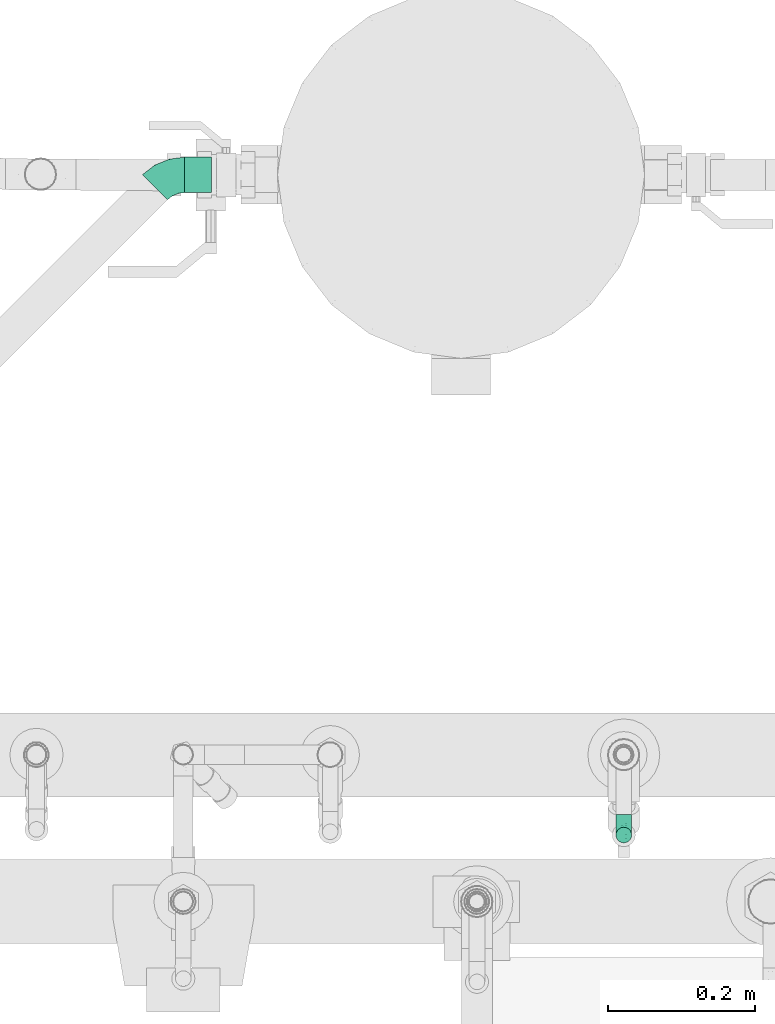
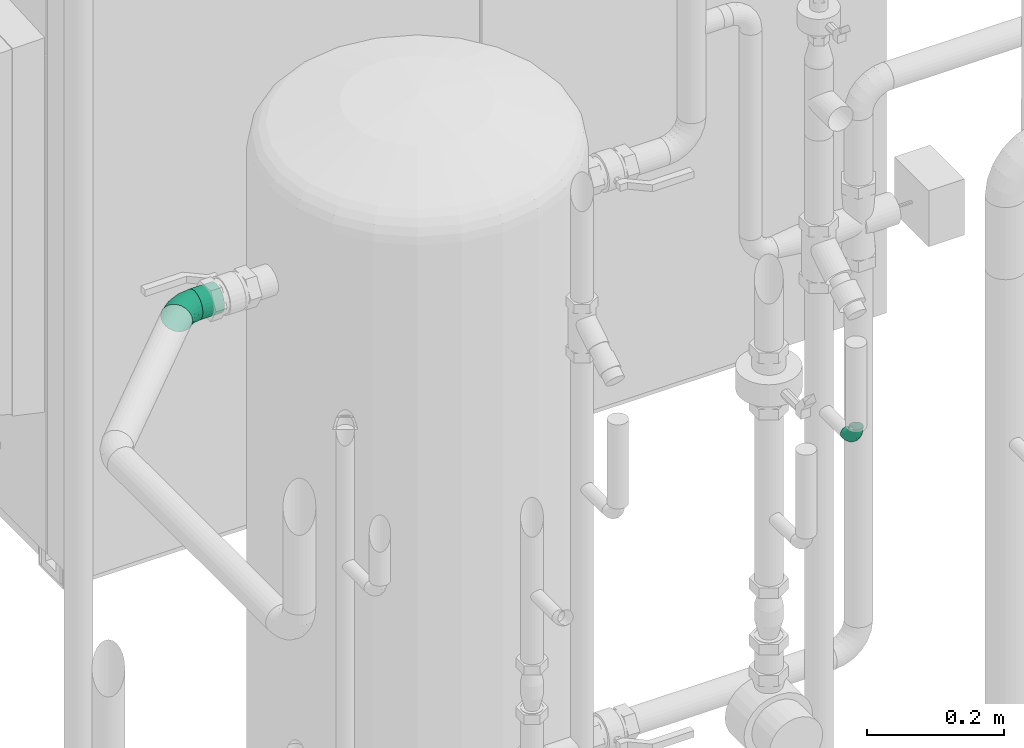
# One storey, part 348 of 374: 3 flow segments.
"""IFC2X3 building model written with IfcOpenShell, lengths in metres."""

from ifc_helpers import new_model, si_unit, direction, origin, place, context, subcontext, project, spatial, open_shell, surface_model, source, transform, mapped, element, save


model = new_model("IFC2X3")

# Units and contexts
model_context = context("Model", 3, precision=1e-05, world=origin(), true_north=direction((-0.4480736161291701, 0.8939966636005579)))
body_context = subcontext(model_context, "Body", "Model", "MODEL_VIEW")
ifc_project = project(units=[si_unit("LENGTHUNIT", "METRE"), si_unit("AREAUNIT", "SQUARE_METRE"), si_unit("VOLUMEUNIT", "CUBIC_METRE"), si_unit("PLANEANGLEUNIT", "RADIAN"), si_unit("THERMODYNAMICTEMPERATUREUNIT", "KELVIN"), si_unit("MASSUNIT", "GRAM", prefix="KILO"), si_unit("TIMEUNIT", "SECOND")], contexts=[model_context])

# Site, building, storey
site_placement = place(None, origin())
site = spatial("IfcSite", under=ifc_project, at=site_placement, Name="Site 1", CompositionType="ELEMENT")
building_placement = place(site_placement, origin())
building = spatial("IfcBuilding", under=site, at=building_placement, Name="Undefined", CompositionType="ELEMENT")
storey_placement = place(building_placement, origin())
storey = spatial("IfcBuildingStorey", under=building, at=storey_placement, Name="Rez de chauss\x8ee", CompositionType="ELEMENT", Elevation=0.0)

# Flow segments
shared_shape_1 = source(origin(), body_context, "Body", "SurfaceModel", [
    surface_model("IfcFaceBasedSurfaceModel", [(0.010089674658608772, 0.0, 1.33226763e-15), (0.010042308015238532, 0.002779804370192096, 1.33226763e-15), (4.73666433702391e-05, 0.0027798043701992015, 4.4408921e-16), (0.0, 0.0, 0.0), (-0.009607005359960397, 0.00311462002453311, -0.0025651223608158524), (-0.00974587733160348, 0.0003379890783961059, -0.0025894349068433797), (-0.01826287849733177, 0.003761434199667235, -0.007520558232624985), (-0.018483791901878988, 0.000990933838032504, -0.007591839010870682), (-0.025330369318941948, 0.004676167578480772, -0.014528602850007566), (-0.025618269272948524, 0.001914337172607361, -0.014666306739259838), (-0.030327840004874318, 0.005796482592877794, -0.023111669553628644), (-0.030663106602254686, 0.003045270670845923, -0.023330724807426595), (-0.03291472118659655, 0.00704603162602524, -0.03268483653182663), (-0.03327450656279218, 0.004306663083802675, -0.0329946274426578), (0.009903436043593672, 0.005463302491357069, -0.000713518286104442), (0.000186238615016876, 0.005463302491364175, -0.0007135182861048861), (-0.009199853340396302, 0.005788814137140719, -0.0032073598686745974), (-0.017615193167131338, 0.006417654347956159, -0.008025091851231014), (-0.02448628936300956, 0.007306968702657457, -0.014838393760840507), (-0.029344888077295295, 0.008396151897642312, -0.023182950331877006), (-0.031859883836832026, 0.009610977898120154, -0.0324900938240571), (0.009682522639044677, 0.007867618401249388, -0.002091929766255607), (0.0004071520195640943, 0.007867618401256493, -0.002091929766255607), (-0.008552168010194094, 0.008178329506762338, -0.004472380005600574), (-0.0165848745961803, 0.008778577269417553, -0.00907105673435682), (-0.023143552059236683, 0.00962745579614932, -0.015574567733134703), (-0.027781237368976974, 0.010667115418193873, -0.023539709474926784), (-0.030181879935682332, 0.011826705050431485, -0.03242367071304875), (0.009394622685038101, 0.009828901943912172, -0.0040412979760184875), (0.000695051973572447, 0.009828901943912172, -0.0040412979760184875), (-0.007708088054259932, 0.010120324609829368, -0.006273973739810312), (-0.015242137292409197, 0.010683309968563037, -0.010587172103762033), (-0.02139366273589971, 0.011479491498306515, -0.01668695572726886), (-0.0257434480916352, 0.012454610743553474, -0.02415763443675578), (-0.027995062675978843, 0.013542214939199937, -0.03249009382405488), (0.00905935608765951, 0.011213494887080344, -0.006428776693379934), (0.0010303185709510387, 0.01121349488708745, -0.006428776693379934), (-0.006725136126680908, 0.011482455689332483, -0.00848936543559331), (-0.0136784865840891, 0.01200204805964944, -0.01247011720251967), (-0.01935587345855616, 0.012736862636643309, -0.018099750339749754), (-0.02337039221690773, 0.013636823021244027, -0.024994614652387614), (-0.02544846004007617, 0.014640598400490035, -0.03268483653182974), (0.008699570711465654, 0.01192703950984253, -0.009091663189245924), (0.001390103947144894, 0.01192703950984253, -0.009091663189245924), (-0.005670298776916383, 0.01217189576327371, -0.010967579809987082), (-0.01200048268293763, 0.012644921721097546, -0.014591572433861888), (-0.017169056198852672, 0.013313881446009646, -0.01971667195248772), (-0.02082378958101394, 0.014133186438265, -0.025993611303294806), (-0.02271561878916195, 0.01504700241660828, -0.032994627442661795), (0.008339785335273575, 0.011920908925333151, -0.011848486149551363), (0.0017498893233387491, 0.011920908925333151, -0.011848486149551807), (-0.0046154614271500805, 0.012141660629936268, -0.013539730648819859), (-0.01032247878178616, 0.012568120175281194, -0.016806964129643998), (-0.014982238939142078, 0.013171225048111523, -0.02142753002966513), (-0.018277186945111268, 0.01390987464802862, -0.027086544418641), (-0.01998277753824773, 0.01473373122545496, -0.033398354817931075), (0.008004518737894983, 0.011195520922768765, -0.01451137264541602), (0.0020851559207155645, 0.011195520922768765, -0.014511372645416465), (-0.003632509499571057, 0.011393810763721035, -0.016030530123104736), (-0.008758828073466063, 0.011776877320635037, -0.018965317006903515), (-0.01294444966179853, 0.012318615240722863, -0.023115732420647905), (-0.01590413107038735, 0.012982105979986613, -0.028198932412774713), (-0.017436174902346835, 0.013722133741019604, -0.03386850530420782), (0.007716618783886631, 0.009800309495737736, -0.016898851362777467), (0.002373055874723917, 0.009800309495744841, -0.016898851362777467), (-0.0027884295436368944, 0.009979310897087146, -0.018270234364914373), (-0.007416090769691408, 0.010325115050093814, -0.020919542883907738), (-0.01119456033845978, 0.010814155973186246, -0.024666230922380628), (-0.013866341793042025, 0.011413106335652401, -0.02925496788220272), (-0.015249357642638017, 0.012081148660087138, -0.03437303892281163), (0.007495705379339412, 0.007830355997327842, -0.018848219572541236), (0.002593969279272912, 0.007830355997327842, -0.018848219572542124), (-0.00214074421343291, 0.00799455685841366, -0.02010621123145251), (-0.006385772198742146, 0.008311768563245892, -0.022536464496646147), (-0.009851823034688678, 0.008760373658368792, -0.025973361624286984), (-0.012302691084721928, 0.00930980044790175, -0.03018268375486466), (-0.013571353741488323, 0.009922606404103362, -0.034877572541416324), (0.007356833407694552, 0.0054199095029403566, -0.020226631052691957), (0.002732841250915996, 0.005419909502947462, -0.0202266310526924), (-0.0017335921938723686, 0.005574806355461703, -0.021413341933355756), (-0.005738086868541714, 0.005874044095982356, -0.023705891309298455), (-0.009007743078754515, 0.006297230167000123, -0.026948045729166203), (-0.011319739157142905, 0.006815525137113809, -0.030918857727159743), (-0.012516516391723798, 0.007393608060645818, -0.03534772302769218), (0.007309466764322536, 0.0027332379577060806, -0.020940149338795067), (0.0027802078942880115, 0.002733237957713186, -0.020940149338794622), (-0.001594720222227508, 0.0028849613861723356, -0.022102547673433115), (-0.0055171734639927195, 0.0031780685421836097, -0.024348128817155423), (-0.008719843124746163, 0.003592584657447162, -0.027523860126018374), (-0.010984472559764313, 0.004100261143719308, -0.03141332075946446), (-0.012156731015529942, 0.004666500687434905, -0.035751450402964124), (0.007356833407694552, -4.656641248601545e-05, -0.020940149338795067), (0.0027328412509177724, -4.656641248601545e-05, -0.0209401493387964), (-0.0017335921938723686, 0.00010833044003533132, -0.022126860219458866), (-0.005738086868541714, 0.00040756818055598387, -0.024419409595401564), (-0.009007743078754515, 0.0008307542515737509, -0.027661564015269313), (-0.011319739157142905, 0.0013490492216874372, -0.03163237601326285), (-0.012516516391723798, 0.0019271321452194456, -0.03606124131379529), (0.007495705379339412, -0.002730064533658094, -0.020226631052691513), (0.002593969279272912, -0.002730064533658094, -0.0202266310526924), (-0.00214074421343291, -0.002565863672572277, -0.021484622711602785), (-0.006385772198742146, -0.002248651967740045, -0.023914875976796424), (-0.009851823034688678, -0.0018000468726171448, -0.02735177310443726), (-0.012302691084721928, -0.0012506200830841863, -0.031561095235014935), (-0.013571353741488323, -0.0006378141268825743, -0.0362559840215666), (0.007716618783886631, -0.005134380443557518, -0.01884821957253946), (0.002373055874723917, -0.0051343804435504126, -0.01884821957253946), (-0.0027884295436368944, -0.004955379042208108, -0.020219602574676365), (-0.007416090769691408, -0.00460957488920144, -0.02286891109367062), (-0.01119456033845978, -0.004120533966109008, -0.026615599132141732), (-0.013866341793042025, -0.0035215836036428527, -0.031204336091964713), (-0.015249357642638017, -0.002853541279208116, -0.03632240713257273), (0.008004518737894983, -0.007095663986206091, -0.01689885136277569), (0.0020851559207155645, -0.007095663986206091, -0.016898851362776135), (-0.003632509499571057, -0.006897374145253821, -0.018418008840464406), (-0.008758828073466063, -0.006514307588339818, -0.021352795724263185), (-0.01294444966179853, -0.005972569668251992, -0.025503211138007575), (-0.01590413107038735, -0.005309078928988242, -0.030586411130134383), (-0.017436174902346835, -0.0045690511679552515, -0.03625598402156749), (0.008339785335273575, -0.008480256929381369, -0.014511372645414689), (0.0017498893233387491, -0.008480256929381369, -0.014511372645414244), (-0.0046154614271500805, -0.008259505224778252, -0.016202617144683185), (-0.01032247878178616, -0.007833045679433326, -0.019469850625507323), (-0.014982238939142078, -0.007229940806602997, -0.024090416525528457), (-0.018277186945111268, -0.006491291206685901, -0.029749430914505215), (-0.01998277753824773, -0.00566743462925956, -0.0360612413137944), (0.008699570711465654, -0.009193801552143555, -0.011848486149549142), (0.001390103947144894, -0.009193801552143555, -0.011848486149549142), (-0.005670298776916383, -0.008948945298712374, -0.013724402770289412), (-0.01200048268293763, -0.008475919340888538, -0.017348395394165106), (-0.017169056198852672, -0.007806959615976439, -0.022473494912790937), (-0.02082378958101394, -0.006987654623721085, -0.028750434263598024), (-0.02271561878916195, -0.006073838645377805, -0.035751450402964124), (0.00905935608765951, -0.009187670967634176, -0.00909166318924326), (0.0010303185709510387, -0.00918767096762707, -0.00909166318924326), (-0.006725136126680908, -0.008918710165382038, -0.011152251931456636), (-0.0136784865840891, -0.00839911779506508, -0.015133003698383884), (-0.01935587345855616, -0.007664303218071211, -0.02076263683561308), (-0.02337039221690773, -0.006764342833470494, -0.02765750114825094), (-0.02544846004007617, -0.005760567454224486, -0.03534772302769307), (0.009394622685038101, -0.008462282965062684, -0.006428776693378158), (0.000695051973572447, -0.008462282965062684, -0.006428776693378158), (-0.007708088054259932, -0.008170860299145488, -0.008661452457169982), (-0.015242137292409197, -0.0076078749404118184, -0.012974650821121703), (-0.02139366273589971, -0.00681169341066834, -0.01907443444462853), (-0.0257434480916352, -0.005836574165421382, -0.02654511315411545), (-0.027995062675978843, -0.004748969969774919, -0.03487757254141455), (0.009682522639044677, -0.007067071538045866, -0.004041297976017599), (0.0004071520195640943, -0.0070670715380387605, -0.004041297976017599), (-0.008552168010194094, -0.006756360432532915, -0.006421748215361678), (-0.0165848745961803, -0.0061561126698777, -0.011020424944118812), (-0.023143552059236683, -0.0053072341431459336, -0.017523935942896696), (-0.027781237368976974, -0.0042675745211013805, -0.02548907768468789), (-0.030181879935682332, -0.0031079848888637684, -0.03437303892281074), (0.009903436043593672, -0.005097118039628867, -0.0020919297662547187), (0.000186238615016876, -0.005097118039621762, -0.002091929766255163), (-0.009199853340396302, -0.004771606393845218, -0.004585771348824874), (-0.017615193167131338, -0.004142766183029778, -0.009403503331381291), (-0.02448628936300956, -0.0032534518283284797, -0.016216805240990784), (-0.029344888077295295, -0.0021642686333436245, -0.024561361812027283), (-0.031859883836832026, -0.0009494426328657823, -0.033868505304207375), (0.010042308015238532, -0.002686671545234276, -0.0007135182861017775), (4.73666433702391e-05, -0.0026866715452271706, -0.0007135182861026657), (-0.009607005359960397, -0.002351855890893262, -0.003278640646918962), (-0.01826287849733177, -0.0017050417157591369, -0.008234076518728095), (-0.025330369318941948, -0.0007903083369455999, -0.015242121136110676), (-0.030327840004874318, 0.0003300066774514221, -0.023825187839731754), (-0.03291472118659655, 0.0015795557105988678, -0.03339835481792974)], [open_shell([[[0, 1, 2, 3]], [[3, 2, 4, 5]], [[5, 4, 6, 7]], [[7, 6, 8, 9]], [[9, 8, 10, 11]], [[11, 10, 12, 13]], [[1, 14, 15, 2]], [[2, 15, 16, 4]], [[4, 16, 17, 6]], [[6, 17, 18, 8]], [[8, 18, 19, 10]], [[10, 19, 20, 12]], [[14, 21, 22, 15]], [[15, 22, 23, 16]], [[16, 23, 24, 17]], [[17, 24, 25, 18]], [[18, 25, 26, 19]], [[19, 26, 27, 20]], [[21, 28, 29, 22]], [[22, 29, 30, 23]], [[23, 30, 31, 24]], [[24, 31, 32, 25]], [[25, 32, 33, 26]], [[26, 33, 34, 27]], [[28, 35, 36, 29]], [[29, 36, 37, 30]], [[30, 37, 38, 31]], [[31, 38, 39, 32]], [[32, 39, 40, 33]], [[33, 40, 41, 34]], [[35, 42, 43, 36]], [[36, 43, 44, 37]], [[37, 44, 45, 38]], [[38, 45, 46, 39]], [[39, 46, 47, 40]], [[40, 47, 48, 41]], [[42, 49, 50, 43]], [[43, 50, 51, 44]], [[44, 51, 52, 45]], [[45, 52, 53, 46]], [[46, 53, 54, 47]], [[47, 54, 55, 48]], [[49, 56, 57, 50]], [[50, 57, 58, 51]], [[51, 58, 59, 52]], [[52, 59, 60, 53]], [[53, 60, 61, 54]], [[54, 61, 62, 55]], [[56, 63, 64, 57]], [[57, 64, 65, 58]], [[58, 65, 66, 59]], [[59, 66, 67, 60]], [[60, 67, 68, 61]], [[61, 68, 69, 62]], [[63, 70, 71, 64]], [[64, 71, 72, 65]], [[65, 72, 73, 66]], [[66, 73, 74, 67]], [[67, 74, 75, 68]], [[68, 75, 76, 69]], [[70, 77, 78, 71]], [[71, 78, 79, 72]], [[72, 79, 80, 73]], [[73, 80, 81, 74]], [[74, 81, 82, 75]], [[75, 82, 83, 76]], [[77, 84, 85, 78]], [[78, 85, 86, 79]], [[79, 86, 87, 80]], [[80, 87, 88, 81]], [[81, 88, 89, 82]], [[82, 89, 90, 83]], [[84, 91, 92, 85]], [[85, 92, 93, 86]], [[86, 93, 94, 87]], [[87, 94, 95, 88]], [[88, 95, 96, 89]], [[89, 96, 97, 90]], [[91, 98, 99, 92]], [[92, 99, 100, 93]], [[93, 100, 101, 94]], [[94, 101, 102, 95]], [[95, 102, 103, 96]], [[96, 103, 104, 97]], [[98, 105, 106, 99]], [[99, 106, 107, 100]], [[100, 107, 108, 101]], [[101, 108, 109, 102]], [[102, 109, 110, 103]], [[103, 110, 111, 104]], [[105, 112, 113, 106]], [[106, 113, 114, 107]], [[107, 114, 115, 108]], [[108, 115, 116, 109]], [[109, 116, 117, 110]], [[110, 117, 118, 111]], [[112, 119, 120, 113]], [[113, 120, 121, 114]], [[114, 121, 122, 115]], [[115, 122, 123, 116]], [[116, 123, 124, 117]], [[117, 124, 125, 118]], [[119, 126, 127, 120]], [[120, 127, 128, 121]], [[121, 128, 129, 122]], [[122, 129, 130, 123]], [[123, 130, 131, 124]], [[124, 131, 132, 125]], [[126, 133, 134, 127]], [[127, 134, 135, 128]], [[128, 135, 136, 129]], [[129, 136, 137, 130]], [[130, 137, 138, 131]], [[131, 138, 139, 132]], [[133, 140, 141, 134]], [[134, 141, 142, 135]], [[135, 142, 143, 136]], [[136, 143, 144, 137]], [[137, 144, 145, 138]], [[138, 145, 146, 139]], [[140, 147, 148, 141]], [[141, 148, 149, 142]], [[142, 149, 150, 143]], [[143, 150, 151, 144]], [[144, 151, 152, 145]], [[145, 152, 153, 146]], [[147, 154, 155, 148]], [[148, 155, 156, 149]], [[149, 156, 157, 150]], [[150, 157, 158, 151]], [[151, 158, 159, 152]], [[152, 159, 160, 153]], [[154, 161, 162, 155]], [[155, 162, 163, 156]], [[156, 163, 164, 157]], [[157, 164, 165, 158]], [[158, 165, 166, 159]], [[159, 166, 167, 160]], [[161, 0, 3, 162]], [[162, 3, 5, 163]], [[163, 5, 7, 164]], [[164, 7, 9, 165]], [[165, 9, 11, 166]], [[166, 11, 13, 167]]])]),
])
flow_segment_1_placement = place(storey_placement, origin())
element("IfcFlowSegment", 1, at=flow_segment_1_placement, inside=storey, Name="Tube coudé", ObjectType="Tube coudé", context=body_context, shape_type="MappedRepresentation", body=[
    mapped(shared_shape_1, transform((53.85756201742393, 10.826833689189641, 1.455886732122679), x_axis=(0.0, 0.9914448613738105, -0.13052619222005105), y_axis=(0.9915887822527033, 0.016893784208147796, 0.12832103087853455), z_axis=(0.1294283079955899, -0.12942830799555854, -0.9831056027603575))),
])
shared_shape_2 = source(origin(), body_context, "Body", "SurfaceModel", [
    surface_model("IfcFaceBasedSurfaceModel", [(0.021184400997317, 0.0, 0.0), (0.021076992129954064, 0.006303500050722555, 0.0), (0.00010740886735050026, 0.006303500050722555, 0.0), (0.0, 0.0, 0.0), (-0.020147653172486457, 0.007005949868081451, -0.005381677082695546), (-0.02046256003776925, 0.0007096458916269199, -0.005436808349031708), (-0.03830784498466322, 0.008362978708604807, -0.015778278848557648), (-0.03880878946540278, 0.00208057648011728, -0.015939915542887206), (0.020762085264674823, 0.012388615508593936, -0.0016179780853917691), (0.00042231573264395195, 0.012388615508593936, -0.0016179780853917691), (-0.019224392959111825, 0.013069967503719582, -0.006838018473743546), (-0.03683915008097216, 0.014386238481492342, -0.016922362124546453), (0.02026114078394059, 0.017840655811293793, -0.004743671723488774), (0.0009232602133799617, 0.01784065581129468, -0.004743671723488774), (-0.017755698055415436, 0.018488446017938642, -0.009706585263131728), (-0.03450279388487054, 0.019739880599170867, -0.019294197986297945), (0.01960829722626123, 0.022288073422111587, -0.009164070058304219), (0.0015761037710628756, 0.0222880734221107, -0.009164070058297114), (-0.01584165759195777, 0.022892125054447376, -0.013791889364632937), (-0.031457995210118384, 0.024059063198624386, -0.02273214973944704), (0.01884804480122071, 0.025427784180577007, -0.014577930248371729), (0.002336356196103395, 0.02542778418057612, -0.014577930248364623), (-0.013612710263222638, 0.025980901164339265, -0.01881552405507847), (-0.027912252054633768, 0.027049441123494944, -0.027001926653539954), (0.018032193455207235, 0.027045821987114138, -0.020616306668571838), (0.0031522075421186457, 0.027045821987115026, -0.020616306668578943), (-0.011220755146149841, 0.02754427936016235, -0.02443513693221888), (-0.024107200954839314, 0.028507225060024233, -0.03181255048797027), (0.017216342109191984, 0.02703192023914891, -0.02686769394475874), (0.003968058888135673, 0.02703192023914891, -0.02686769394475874), (-0.008828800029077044, 0.02747571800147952, -0.030267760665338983), (-0.020302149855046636, 0.02833306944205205, -0.03683618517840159), (0.016456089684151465, 0.02538702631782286, -0.03290607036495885), (0.004728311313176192, 0.025387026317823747, -0.03290607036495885), (-0.006599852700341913, 0.02577988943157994, -0.03591591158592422), (-0.016756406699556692, 0.02653884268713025, -0.04173047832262), (0.01580324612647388, 0.022223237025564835, -0.038319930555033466), (0.005381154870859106, 0.022223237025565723, -0.03831993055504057), (-0.004685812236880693, 0.02257236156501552, -0.0409946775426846), (-0.013711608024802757, 0.023246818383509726, -0.04616189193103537), (0.015302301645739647, 0.017756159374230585, -0.04274032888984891), (0.005882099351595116, 0.017756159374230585, -0.04274032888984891), (-0.0032171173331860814, 0.018071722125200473, -0.04515794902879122), (-0.011375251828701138, 0.01868134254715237, -0.0498284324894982), (0.014987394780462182, 0.012290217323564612, -0.045866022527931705), (0.006197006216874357, 0.012290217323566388, -0.045866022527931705), (-0.002293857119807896, 0.012584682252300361, -0.048122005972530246), (-0.009906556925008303, 0.013153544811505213, -0.05248023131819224), (0.014879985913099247, 0.0061979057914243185, -0.047484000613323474), (0.006304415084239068, 0.006197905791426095, -0.047484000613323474), (-0.0019789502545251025, 0.0064851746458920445, -0.049684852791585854), (-0.009405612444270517, 0.007040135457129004, -0.053936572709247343), (0.014987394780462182, -0.0001055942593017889, -0.047484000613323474), (0.006197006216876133, -0.00010559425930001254, -0.047484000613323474), (-0.0022938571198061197, 0.00018887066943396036, -0.049739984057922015), (-0.009906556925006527, 0.0007577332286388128, -0.05409820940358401), (0.015302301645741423, -0.006190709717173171, -0.04586602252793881), (0.005882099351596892, -0.006190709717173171, -0.04586602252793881), (-0.003217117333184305, -0.005875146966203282, -0.04828364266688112), (-0.011375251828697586, -0.0052655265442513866, -0.0529541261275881), (0.015803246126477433, -0.01164275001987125, -0.042740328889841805), (0.0053811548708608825, -0.011642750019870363, -0.04274032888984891), (-0.0046858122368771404, -0.011293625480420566, -0.04541507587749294), (-0.01371160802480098, -0.01061916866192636, -0.05058229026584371), (0.016456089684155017, -0.016090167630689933, -0.03831993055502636), (0.004728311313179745, -0.016090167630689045, -0.03831993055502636), (-0.00659985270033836, -0.015697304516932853, -0.04132977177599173), (-0.01675640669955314, -0.014938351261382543, -0.047144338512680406), (0.017216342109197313, -0.0192298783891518, -0.032906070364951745), (0.003968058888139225, -0.0192298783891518, -0.032906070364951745), (-0.008828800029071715, -0.01878608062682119, -0.036306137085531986), (-0.020302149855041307, -0.01792872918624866, -0.042874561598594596), (0.018032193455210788, -0.020847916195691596, -0.026867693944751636), (0.003152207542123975, -0.020847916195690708, -0.02686769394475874), (-0.011220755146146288, -0.020349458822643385, -0.03068652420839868), (-0.02410720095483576, -0.0193865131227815, -0.03806393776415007), (0.018848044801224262, -0.020834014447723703, -0.020616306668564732), (0.0023363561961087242, -0.02083401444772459, -0.020616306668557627), (-0.01361271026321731, -0.020280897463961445, -0.024853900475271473), (-0.02791225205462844, -0.019212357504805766, -0.03304030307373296), (0.01960829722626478, -0.019189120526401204, -0.014577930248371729), (0.0015761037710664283, -0.019189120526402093, -0.014577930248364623), (-0.015841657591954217, -0.018585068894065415, -0.01920574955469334), (-0.03145799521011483, -0.017418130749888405, -0.028146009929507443), (0.020261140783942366, -0.016025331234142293, -0.009164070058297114), (0.0009232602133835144, -0.016025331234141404, -0.009164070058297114), (-0.017755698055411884, -0.015377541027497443, -0.014126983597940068), (-0.03450279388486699, -0.014126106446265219, -0.023714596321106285), (0.0207620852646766, -0.011558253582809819, -0.004743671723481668), (0.0004223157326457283, -0.011558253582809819, -0.004743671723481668), (-0.019224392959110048, -0.010876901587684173, -0.009963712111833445), (-0.036839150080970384, -0.009560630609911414, -0.020048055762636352), (0.02107699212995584, -0.006092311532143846, -0.0016179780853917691), (0.00010740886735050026, -0.0060923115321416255, -0.0016179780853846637), (-0.020147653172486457, -0.005389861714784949, -0.006999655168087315), (-0.03830784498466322, -0.004032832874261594, -0.017396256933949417)], [open_shell([[[0, 1, 2, 3]], [[3, 2, 4, 5]], [[5, 4, 6, 7]], [[1, 8, 9, 2]], [[2, 9, 10, 4]], [[4, 10, 11, 6]], [[8, 12, 13, 9]], [[9, 13, 14, 10]], [[10, 14, 15, 11]], [[12, 16, 17, 13]], [[13, 17, 18, 14]], [[14, 18, 19, 15]], [[16, 20, 21, 17]], [[17, 21, 22, 18]], [[18, 22, 23, 19]], [[20, 24, 25, 21]], [[21, 25, 26, 22]], [[22, 26, 27, 23]], [[24, 28, 29, 25]], [[25, 29, 30, 26]], [[26, 30, 31, 27]], [[28, 32, 33, 29]], [[29, 33, 34, 30]], [[30, 34, 35, 31]], [[32, 36, 37, 33]], [[33, 37, 38, 34]], [[34, 38, 39, 35]], [[36, 40, 41, 37]], [[37, 41, 42, 38]], [[38, 42, 43, 39]], [[40, 44, 45, 41]], [[41, 45, 46, 42]], [[42, 46, 47, 43]], [[44, 48, 49, 45]], [[45, 49, 50, 46]], [[46, 50, 51, 47]], [[48, 52, 53, 49]], [[49, 53, 54, 50]], [[50, 54, 55, 51]], [[52, 56, 57, 53]], [[53, 57, 58, 54]], [[54, 58, 59, 55]], [[56, 60, 61, 57]], [[57, 61, 62, 58]], [[58, 62, 63, 59]], [[60, 64, 65, 61]], [[61, 65, 66, 62]], [[62, 66, 67, 63]], [[64, 68, 69, 65]], [[65, 69, 70, 66]], [[66, 70, 71, 67]], [[68, 72, 73, 69]], [[69, 73, 74, 70]], [[70, 74, 75, 71]], [[72, 76, 77, 73]], [[73, 77, 78, 74]], [[74, 78, 79, 75]], [[76, 80, 81, 77]], [[77, 81, 82, 78]], [[78, 82, 83, 79]], [[80, 84, 85, 81]], [[81, 85, 86, 82]], [[82, 86, 87, 83]], [[84, 88, 89, 85]], [[85, 89, 90, 86]], [[86, 90, 91, 87]], [[88, 92, 93, 89]], [[89, 93, 94, 90]], [[90, 94, 95, 91]], [[92, 0, 3, 93]], [[93, 3, 5, 94]], [[94, 5, 7, 95]]])]),
])
flow_segment_2_placement = place(storey_placement, origin())
element("IfcFlowSegment", 2, at=flow_segment_2_placement, inside=storey, Name="Tube coudé", ObjectType="Tube coudé", context=body_context, shape_type="MappedRepresentation", body=[
    mapped(shared_shape_2, transform((53.238334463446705, 11.729469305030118, 1.3741500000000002), x_axis=(0.9914448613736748, 0.13052619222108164, 0.0), y_axis=(0.016893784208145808, -0.12832103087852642, -0.9915887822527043), z_axis=(-0.12942830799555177, 0.9831056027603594, -0.12942830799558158))),
])
shared_shape_3 = source(origin(), body_context, "Body", "SurfaceModel", [
    surface_model("IfcFaceBasedSurfaceModel", [(0.0, 0.006304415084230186, 7.105427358e-15), (0.0, 0.0, 0.0), (0.0367999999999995, 0.0, 0.0), (0.0367999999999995, 0.00630441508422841, 0.0), (0.0, -0.006089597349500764, -0.0016317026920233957), (0.0367999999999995, -0.0060895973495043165, -0.001631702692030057), (0.0, -0.011549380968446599, -0.004783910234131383), (0.0367999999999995, -0.011549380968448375, -0.004783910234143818), (0.0, -0.016007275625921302, -0.009241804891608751), (0.0367999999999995, -0.016007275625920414, -0.009241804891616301), (0.0, -0.01915948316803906, -0.014701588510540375), (0.0367999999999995, -0.019159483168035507, -0.01470158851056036), (0.0, -0.020791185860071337, -0.020791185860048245), (0.0367999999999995, -0.020791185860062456, -0.0207911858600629), (0.0, -0.020791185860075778, -0.027095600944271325), (0.0367999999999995, -0.020791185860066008, -0.02709560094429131), (0.0, -0.01915948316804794, -0.03318519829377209), (0.0367999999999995, -0.019159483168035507, -0.03318519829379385), (0.0, -0.01600727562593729, -0.038644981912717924), (0.0367999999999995, -0.01600727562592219, -0.03864498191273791), (0.0, -0.011549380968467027, -0.0431028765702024), (0.0367999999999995, -0.011549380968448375, -0.04310287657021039), (0.0, -0.006089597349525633, -0.04625508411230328), (0.0367999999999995, -0.0060895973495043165, -0.04625508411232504), (0.0, -2.4868995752e-14, -0.04788678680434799), (0.0367999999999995, -1.776356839e-15, -0.0478867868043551), (0.0, 0.006304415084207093, -0.047886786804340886), (0.0367999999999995, 0.006304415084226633, -0.04788678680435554), (0.0, 0.012394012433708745, -0.046255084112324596), (0.0367999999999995, 0.01239401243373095, -0.04625508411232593), (0.0, 0.01785379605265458, -0.0431028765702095), (0.0367999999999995, 0.017853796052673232, -0.04310287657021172), (0.0, 0.022311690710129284, -0.03864498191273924), (0.0367999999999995, 0.022311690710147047, -0.038644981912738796), (0.0, 0.02546389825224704, -0.03318519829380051), (0.0367999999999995, 0.025463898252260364, -0.033185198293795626), (0.0, 0.02709560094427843, -0.027095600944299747), (0.0367999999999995, 0.027095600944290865, -0.02709560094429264), (0.0, 0.02709560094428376, -0.02079118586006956), (0.0367999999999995, 0.027095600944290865, -0.020791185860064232), (0.0, 0.025463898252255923, -0.014701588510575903), (0.0367999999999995, 0.02546389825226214, -0.014701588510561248), (0.0, 0.02231169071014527, -0.009241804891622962), (0.0367999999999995, 0.022311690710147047, -0.009241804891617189), (0.0, 0.01785379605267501, -0.004783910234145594), (0.0367999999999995, 0.01785379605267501, -0.00478391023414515), (0.0, 0.012394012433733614, -0.0016317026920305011), (0.0367999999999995, 0.01239401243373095, -0.001631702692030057)], [open_shell([[[0, 1, 2, 3]], [[1, 4, 5, 2]], [[4, 6, 7, 5]], [[6, 8, 9, 7]], [[8, 10, 11, 9]], [[10, 12, 13, 11]], [[12, 14, 15, 13]], [[14, 16, 17, 15]], [[16, 18, 19, 17]], [[18, 20, 21, 19]], [[20, 22, 23, 21]], [[22, 24, 25, 23]], [[24, 26, 27, 25]], [[26, 28, 29, 27]], [[28, 30, 31, 29]], [[30, 32, 33, 31]], [[32, 34, 35, 33]], [[34, 36, 37, 35]], [[36, 38, 39, 37]], [[38, 40, 41, 39]], [[40, 42, 43, 41]], [[42, 44, 45, 43]], [[44, 46, 47, 45]], [[46, 0, 3, 47]]])]),
])
flow_segment_3_placement = place(storey_placement, origin())
element("IfcFlowSegment", 3, at=flow_segment_3_placement, inside=storey, Name="Tube acier d'après DIN 2448", ObjectType="Tube acier d'après DIN 2448", context=body_context, shape_type="MappedRepresentation", body=[
    mapped(shared_shape_3, transform((53.29613762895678, 11.71433490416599, 1.3974771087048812), x_axis=(-1.0, 0.0, 0.0), y_axis=(7.266545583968e-12, -0.9914448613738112, 0.13052619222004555), z_axis=(0.0, 0.13052619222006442, 0.9914448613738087))),
])

save(model, "model.ifc")
